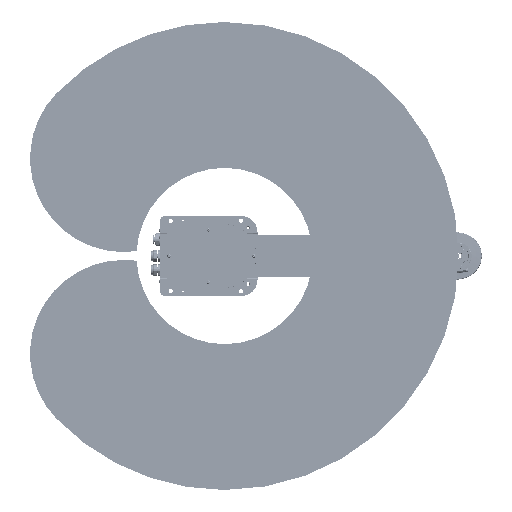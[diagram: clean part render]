
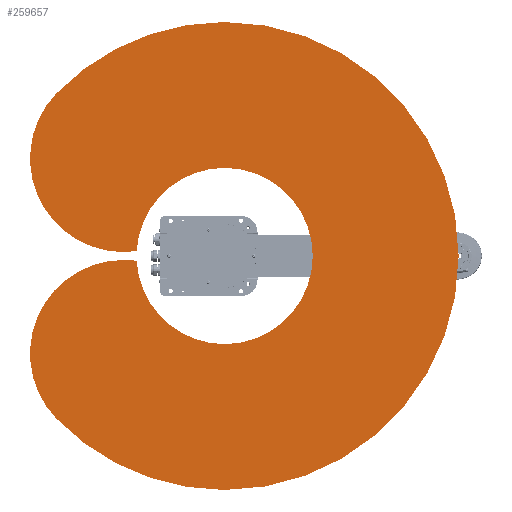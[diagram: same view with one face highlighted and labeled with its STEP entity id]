
A CAD part, front view. The second image highlights one B-rep face of the part: STEP entity #259657.
In plain terms, the highlighted planar face has unit normal (0, -1, 0).
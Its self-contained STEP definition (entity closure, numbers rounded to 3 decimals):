
#427 = PLANE ( 'NONE',  #168044 ) ;
#4227 = EDGE_CURVE ( 'NONE', #25153, #38626, #76409, .T. ) ;
#4729 = DIRECTION ( 'NONE',  ( 0., 1., 0. ) ) ;
#6343 = DIRECTION ( 'NONE',  ( 0., -1., 0. ) ) ;
#6977 = AXIS2_PLACEMENT_3D ( 'NONE', #38944, #263640, #188304 ) ;
#9399 = DIRECTION ( 'NONE',  ( 0., 0., -1. ) ) ;
#9400 = CARTESIAN_POINT ( 'NONE',  ( 0., 0., -500. ) ) ;
#14666 = CARTESIAN_POINT ( 'NONE',  ( 215.802, 0., 208.398 ) ) ;
#19155 = CARTESIAN_POINT ( 'NONE',  ( 107.901, 0., 104.199 ) ) ;
#24212 = VERTEX_POINT ( 'NONE', #119282 ) ;
#24583 = CARTESIAN_POINT ( 'NONE',  ( 359.67, 0., -347.329 ) ) ;
#25153 = VERTEX_POINT ( 'NONE', #124597 ) ;
#25185 = AXIS2_PLACEMENT_3D ( 'NONE', #61002, #242877, #262966 ) ;
#34761 = VERTEX_POINT ( 'NONE', #93400 ) ;
#38626 = VERTEX_POINT ( 'NONE', #206227 ) ;
#38944 = CARTESIAN_POINT ( 'NONE',  ( 0., 0., 0. ) ) ;
#40565 = CARTESIAN_POINT ( 'NONE',  ( 0., 0., 500. ) ) ;
#47835 = ORIENTED_EDGE ( 'NONE', *, *, #200183, .F. ) ;
#49060 = CARTESIAN_POINT ( 'NONE',  ( 0., 0., 0. ) ) ;
#61002 = CARTESIAN_POINT ( 'NONE',  ( 0., 0., 0. ) ) ;
#64073 = VERTEX_POINT ( 'NONE', #24583 ) ;
#67434 = EDGE_CURVE ( 'NONE', #24212, #104984, #217869, .T. ) ;
#68154 = VERTEX_POINT ( 'NONE', #40565 ) ;
#71161 = ORIENTED_EDGE ( 'NONE', *, *, #253334, .F. ) ;
#73157 = CIRCLE ( 'NONE', #115929, 200. ) ;
#76409 = CIRCLE ( 'NONE', #25185, 188.3 ) ;
#78045 = EDGE_CURVE ( 'NONE', #64073, #239462, #84930, .T. ) ;
#84656 = CARTESIAN_POINT ( 'NONE',  ( 359.67, 0., 347.329 ) ) ;
#84930 = CIRCLE ( 'NONE', #174655, 500. ) ;
#86312 = CARTESIAN_POINT ( 'NONE',  ( 0., 0., 0. ) ) ;
#92726 = EDGE_CURVE ( 'NONE', #104984, #25153, #241969, .T. ) ;
#93400 = CARTESIAN_POINT ( 'NONE',  ( 215.802, 0., 8.398 ) ) ;
#100671 = ORIENTED_EDGE ( 'NONE', *, *, #231795, .F. ) ;
#104984 = VERTEX_POINT ( 'NONE', #183224 ) ;
#108501 = CARTESIAN_POINT ( 'NONE',  ( 215.802, 0., 208.398 ) ) ;
#113154 = AXIS2_PLACEMENT_3D ( 'NONE', #210316, #150190, #130070 ) ;
#115929 = AXIS2_PLACEMENT_3D ( 'NONE', #14666, #175244, #9399 ) ;
#116931 = DIRECTION ( 'NONE',  ( 0., 0., 1. ) ) ;
#118277 = CARTESIAN_POINT ( 'NONE',  ( 0., 0., 0. ) ) ;
#119282 = CARTESIAN_POINT ( 'NONE',  ( 188.016, 0., 10.337 ) ) ;
#124597 = CARTESIAN_POINT ( 'NONE',  ( 0., 0., -188.3 ) ) ;
#124800 = FACE_OUTER_BOUND ( 'NONE', #233796, .T. ) ;
#125171 = DIRECTION ( 'NONE',  ( 0., 0., 1. ) ) ;
#126672 = CIRCLE ( 'NONE', #173630, 200. ) ;
#127327 = VERTEX_POINT ( 'NONE', #84656 ) ;
#129371 = DIRECTION ( 'NONE',  ( 0., 0., 1. ) ) ;
#130070 = DIRECTION ( 'NONE',  ( 0., 0., 1. ) ) ;
#132842 = CIRCLE ( 'NONE', #256678, 500. ) ;
#133140 = ORIENTED_EDGE ( 'NONE', *, *, #67434, .F. ) ;
#141595 = DIRECTION ( 'NONE',  ( 0., 0., 1. ) ) ;
#150190 = DIRECTION ( 'NONE',  ( 0., 1., 0. ) ) ;
#157729 = EDGE_CURVE ( 'NONE', #127327, #34761, #126672, .T. ) ;
#158392 = ORIENTED_EDGE ( 'NONE', *, *, #194284, .F. ) ;
#162312 = DIRECTION ( 'NONE',  ( 0., 0., -1. ) ) ;
#168044 = AXIS2_PLACEMENT_3D ( 'NONE', #19155, #186314, #162312 ) ;
#173630 = AXIS2_PLACEMENT_3D ( 'NONE', #108501, #254182, #250262 ) ;
#174655 = AXIS2_PLACEMENT_3D ( 'NONE', #244177, #264273, #125171 ) ;
#175244 = DIRECTION ( 'NONE',  ( 0., 1., 0. ) ) ;
#177978 = ORIENTED_EDGE ( 'NONE', *, *, #92726, .F. ) ;
#183224 = CARTESIAN_POINT ( 'NONE',  ( 0., 0., 188.3 ) ) ;
#184685 = ORIENTED_EDGE ( 'NONE', *, *, #78045, .F. ) ;
#186216 = AXIS2_PLACEMENT_3D ( 'NONE', #86312, #4729, #141595 ) ;
#186314 = DIRECTION ( 'NONE',  ( 0., -1., 0. ) ) ;
#188304 = DIRECTION ( 'NONE',  ( 0., 0., 1. ) ) ;
#194284 = EDGE_CURVE ( 'NONE', #239462, #68154, #237261, .T. ) ;
#194489 = DIRECTION ( 'NONE',  ( 0., 1., 0. ) ) ;
#195824 = ORIENTED_EDGE ( 'NONE', *, *, #157729, .F. ) ;
#199647 = ORIENTED_EDGE ( 'NONE', *, *, #4227, .F. ) ;
#200183 = EDGE_CURVE ( 'NONE', #68154, #127327, #132842, .T. ) ;
#206227 = CARTESIAN_POINT ( 'NONE',  ( 188.016, 0., -10.337 ) ) ;
#207310 = CIRCLE ( 'NONE', #113154, 200. ) ;
#209307 = AXIS2_PLACEMENT_3D ( 'NONE', #49060, #6343, #129371 ) ;
#210316 = CARTESIAN_POINT ( 'NONE',  ( 215.802, 0., -208.398 ) ) ;
#217869 = CIRCLE ( 'NONE', #209307, 188.3 ) ;
#231795 = EDGE_CURVE ( 'NONE', #34761, #24212, #73157, .T. ) ;
#233796 = EDGE_LOOP ( 'NONE', ( #195824, #47835, #158392, #184685, #71161, #199647, #177978, #133140, #100671 ) ) ;
#237261 = CIRCLE ( 'NONE', #186216, 500. ) ;
#239462 = VERTEX_POINT ( 'NONE', #9400 ) ;
#241969 = CIRCLE ( 'NONE', #6977, 188.3 ) ;
#242877 = DIRECTION ( 'NONE',  ( 0., -1., 0. ) ) ;
#244177 = CARTESIAN_POINT ( 'NONE',  ( 0., 0., 0. ) ) ;
#250262 = DIRECTION ( 'NONE',  ( 0., 0., -1. ) ) ;
#253334 = EDGE_CURVE ( 'NONE', #38626, #64073, #207310, .T. ) ;
#254182 = DIRECTION ( 'NONE',  ( 0., 1., 0. ) ) ;
#256678 = AXIS2_PLACEMENT_3D ( 'NONE', #118277, #194489, #116931 ) ;
#259657 = ADVANCED_FACE ( 'NONE', ( #124800 ), #427, .T. ) ;
#262966 = DIRECTION ( 'NONE',  ( 0., 0., 1. ) ) ;
#263640 = DIRECTION ( 'NONE',  ( 0., -1., 0. ) ) ;
#264273 = DIRECTION ( 'NONE',  ( 0., 1., 0. ) ) ;
